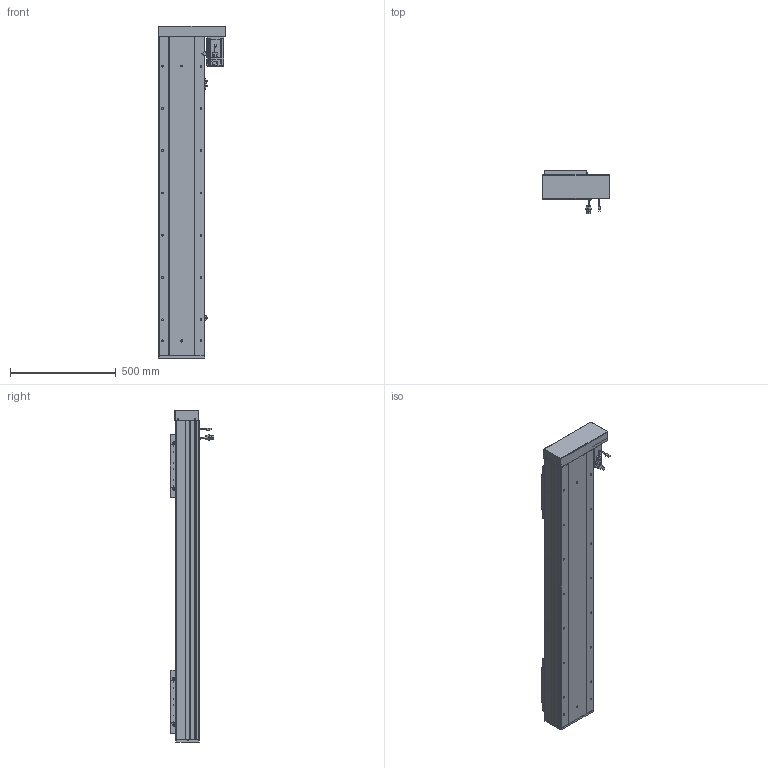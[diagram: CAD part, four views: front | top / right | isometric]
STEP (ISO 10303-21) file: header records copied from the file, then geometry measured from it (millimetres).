
FILE_DESCRIPTION (( 'STEP AP203' ), '1' );
FILE_NAME ('RY220F-L2525-300-RK.SLDASM_1100.step', '2022-07-04T01:35:25', ( '' ), ( '' ), 'SwSTEP 2.0', 'SolidWorks 2016', '' );
FILE_SCHEMA (( 'CONFIG_CONTROL_DESIGN' ));
Length unit declared in the file: millimetre
Products named in the file (15): RY220F綴裔啣; RY220F臏賑釱25-32佪裝; RY220F蛌殏菁釱-300_1100; 覜茼ん672; RY220左右折电机安装板; RY220F-詩湍揤踡輸; RY220F-L2525-300-RK.SLDASM_1100; RY220F-滅鳥奻裔; RY220F-672覜茼んえ; 怢湛750W_ECMA-CX0807ES; RY220F-祥凄詩湍-蛌殏-300_1100; 侐源滅袉蝶; 滅袉蝶18-24; RY220F-蛌殏奻裔啣-300_1100; RY220酘衵殏萇儂欶
Assembly tree (24 placements, depth 2):
  RY220F-L2525-300-RK.SLDASM_1100
    RY220F蛌殏菁釱-300_1100
    RY220F-蛌殏奻裔啣-300_1100  x2
    怢湛750W_ECMA-CX0807ES
    RY220F臏賑釱25-32佪裝  x2
    RY220F-滅鳥奻裔  x2
    滅袉蝶18-24  x3
    RY220F綴裔啣
    RY220F-祥凄詩湍-蛌殏-300_1100
    RY220F-詩湍揤踡輸  x2
    覜茼ん672  x3
    RY220F-672覜茼んえ  x2
    RY220左右折电机安装板
    RY220酘衵殏萇儂欶
    侐源滅袉蝶  x2
Bounding box: 317.5 x 205.27 x 1571 mm (x, y, z)
Volume: 15112868.8 mm3; surface area: 3954803.6 mm2
Topology: 25 solids, 25 shells, 2748 faces, 7480 edges, 4636 vertices
Faces by surface type: cylinder 1238, plane 1044, cone 395, bspline 45, sphere 16, torus 10
Entity records: 68168 total; most frequent: CARTESIAN_POINT 18561, ORIENTED_EDGE 10030, DIRECTION 9732, EDGE_CURVE 5015, AXIS2_PLACEMENT_3D 3458, VERTEX_POINT 3252, LINE 2816, VECTOR 2816
